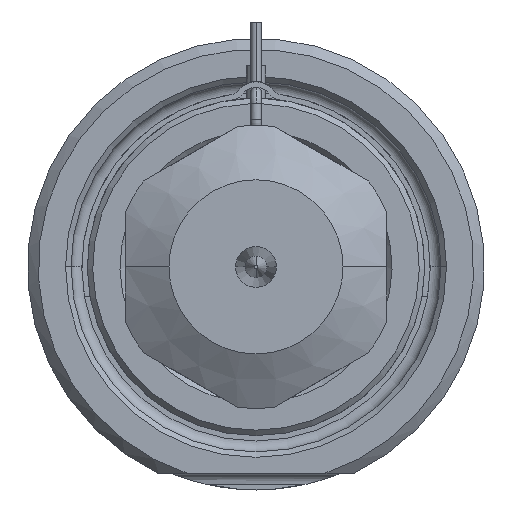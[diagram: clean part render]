
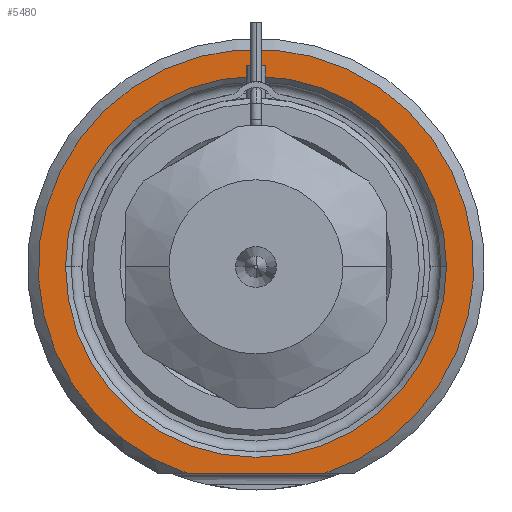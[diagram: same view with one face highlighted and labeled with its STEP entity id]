
A CAD part, front view. The second image highlights one B-rep face of the part: STEP entity #5480.
In plain terms, the highlighted planar face has unit normal (0, -1, 0).
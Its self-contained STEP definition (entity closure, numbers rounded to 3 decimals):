
#1339=DIRECTION('',(1.,0.,0.));
#1340=VECTOR('',#1339,12.49);
#1341=CARTESIAN_POINT('',(-6.245,0.,-19.));
#1342=LINE('',#1341,#1340);
#1343=CARTESIAN_POINT('',(0.,0.,0.));
#1344=DIRECTION('',(0.,1.,0.));
#1345=DIRECTION('',(-1.,0.,0.));
#1346=AXIS2_PLACEMENT_3D('',#1343,#1344,#1345);
#1348=CARTESIAN_POINT('',(0.,0.,0.));
#1349=DIRECTION('',(0.,1.,0.));
#1350=DIRECTION('',(1.,0.,0.));
#1351=AXIS2_PLACEMENT_3D('',#1348,#1349,#1350);
#1457=CARTESIAN_POINT('',(0.,0.,0.));
#1458=DIRECTION('',(0.,-1.,0.));
#1459=DIRECTION('',(0.312,0.,-0.95));
#1460=AXIS2_PLACEMENT_3D('',#1457,#1458,#1459);
#3384=CARTESIAN_POINT('',(-17.5,0.,0.));
#3385=CARTESIAN_POINT('',(17.5,0.,0.));
#3386=VERTEX_POINT('',#3384);
#3387=VERTEX_POINT('',#3385);
#3428=CARTESIAN_POINT('',(-6.245,0.,-19.));
#3429=CARTESIAN_POINT('',(6.245,0.,-19.));
#3430=VERTEX_POINT('',#3428);
#3431=VERTEX_POINT('',#3429);
#5464=CARTESIAN_POINT('',(0.,0.,0.));
#5465=DIRECTION('',(0.,-1.,0.));
#5466=DIRECTION('',(1.,0.,0.));
#5467=AXIS2_PLACEMENT_3D('',#5464,#5465,#5466);
#5468=PLANE('',#5467);
#5470=ORIENTED_EDGE('',*,*,#5469,.F.);
#5472=ORIENTED_EDGE('',*,*,#5471,.F.);
#5473=EDGE_LOOP('',(#5470,#5472));
#5474=FACE_OUTER_BOUND('',#5473,.F.);
#5475=ORIENTED_EDGE('',*,*,#5454,.F.);
#5477=ORIENTED_EDGE('',*,*,#5476,.F.);
#5478=EDGE_LOOP('',(#5475,#5477));
#5479=FACE_BOUND('',#5478,.F.);
#5480=ADVANCED_FACE('',(#5474,#5479),#5468,.T.);
#1347=CIRCLE('',#1346,17.5);
#1352=CIRCLE('',#1351,17.5);
#1461=CIRCLE('',#1460,20.);
#5454=EDGE_CURVE('',#3386,#3387,#1347,.T.);
#5469=EDGE_CURVE('',#3430,#3431,#1342,.T.);
#5471=EDGE_CURVE('',#3431,#3430,#1461,.T.);
#5476=EDGE_CURVE('',#3387,#3386,#1352,.T.);
